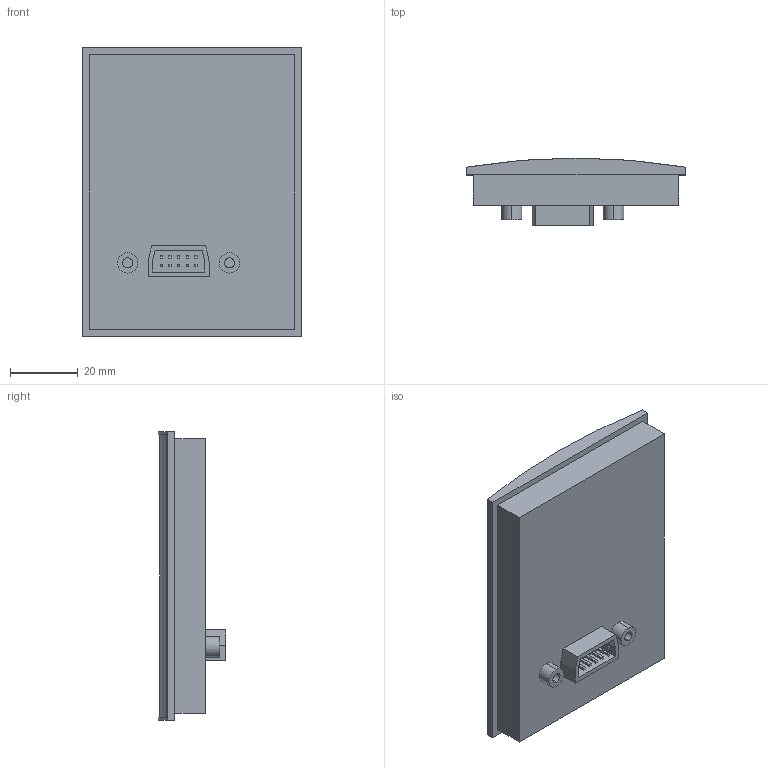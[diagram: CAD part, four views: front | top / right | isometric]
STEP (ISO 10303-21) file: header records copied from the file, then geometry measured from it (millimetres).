
FILE_DESCRIPTION (( 'STEP AP214' ), '1' );
FILE_NAME ('3D ìîäåëü ËÏÎ2.STEP', '2016-05-19T10:00:37', ( '' ), ( '' ), 'SwSTEP 2.0', 'SolidWorks 2014', '' );
FILE_SCHEMA (( 'AUTOMOTIVE_DESIGN' ));
Length unit declared in the file: millimetre
Products named in the file (1): 3D ìîäåëü ËÏÎ2
Bounding box: 64.5 x 19.9 x 85 mm (x, y, z)
Volume: 64004.9 mm3; surface area: 15533.2 mm2
Topology: 1 solids, 1 shells, 92 faces, 216 edges, 144 vertices
Faces by surface type: plane 82, cylinder 10
Entity records: 3186 total; most frequent: CARTESIAN_POINT 453, ORIENTED_EDGE 432, DIRECTION 424, EDGE_CURVE 216, VECTOR 194, LINE 194, VERTEX_POINT 144, AXIS2_PLACEMENT_3D 115
